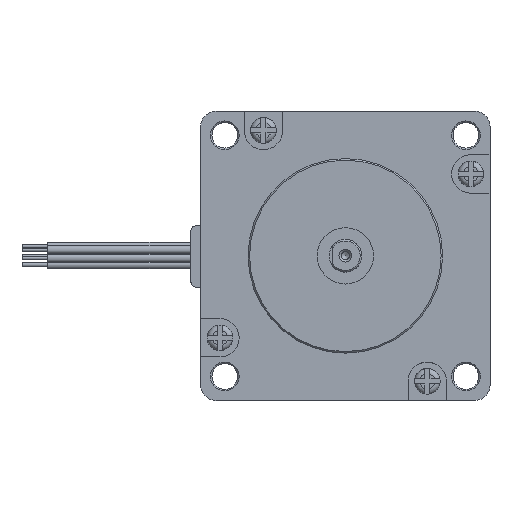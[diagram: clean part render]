
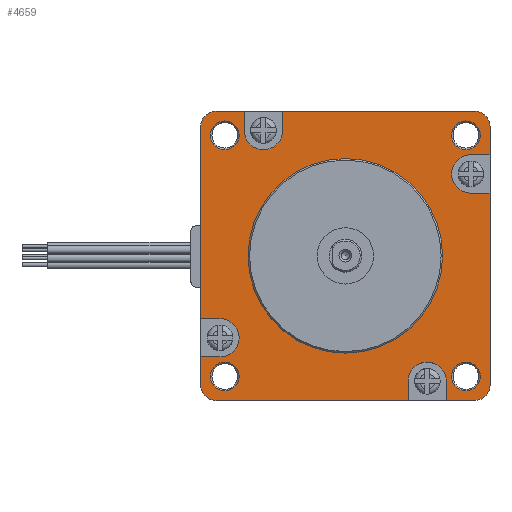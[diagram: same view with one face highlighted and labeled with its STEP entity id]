
A CAD part, top view. The second image highlights one B-rep face of the part: STEP entity #4659.
In plain terms, the highlighted planar face has unit normal (0, 0, 1).
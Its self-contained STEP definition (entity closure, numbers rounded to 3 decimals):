
#260=LINE('',#7596,#660);
#264=LINE('',#7603,#664);
#266=LINE('',#7608,#666);
#272=LINE('',#7617,#672);
#276=LINE('',#7633,#676);
#280=LINE('',#7640,#680);
#282=LINE('',#7645,#682);
#288=LINE('',#7654,#688);
#291=LINE('',#7662,#691);
#295=LINE('',#7674,#695);
#298=LINE('',#7681,#698);
#299=LINE('',#7683,#699);
#300=LINE('',#7688,#700);
#301=LINE('',#7690,#701);
#302=LINE('',#7694,#702);
#303=LINE('',#7696,#703);
#660=VECTOR('',#5939,3.75);
#664=VECTOR('',#5945,3.75);
#666=VECTOR('',#5951,37.5);
#672=VECTOR('',#5957,5.5);
#676=VECTOR('',#5973,3.75);
#680=VECTOR('',#5979,3.75);
#682=VECTOR('',#5985,37.5);
#688=VECTOR('',#5991,5.5);
#691=VECTOR('',#5996,3.75);
#695=VECTOR('',#6008,3.75);
#698=VECTOR('',#6017,37.5);
#699=VECTOR('',#6018,5.5);
#700=VECTOR('',#6023,37.5);
#701=VECTOR('',#6024,3.75);
#702=VECTOR('',#6027,3.75);
#703=VECTOR('',#6028,5.5);
#991=PLANE('',#5063);
#1118=FACE_BOUND('',#1628,.T.);
#1119=FACE_BOUND('',#1629,.T.);
#1120=FACE_BOUND('',#1630,.T.);
#1121=FACE_BOUND('',#1631,.T.);
#1122=FACE_BOUND('',#1632,.T.);
#1295=FACE_OUTER_BOUND('',#1627,.T.);
#1627=EDGE_LOOP('',(#3679,#3680,#3681,#3682,#3683,#3684,#3685,#3686,#3687,
#3688,#3689,#3690,#3691,#3692,#3693,#3694,#3695,#3696,#3697,#3698,#3699,
#3700,#3701,#3702));
#1628=EDGE_LOOP('',(#3703));
#1629=EDGE_LOOP('',(#3704));
#1630=EDGE_LOOP('',(#3705));
#1631=EDGE_LOOP('',(#3706));
#1632=EDGE_LOOP('',(#3707));
#1903=CIRCLE('',#5043,3.75);
#1905=CIRCLE('',#5052,3.75);
#1907=CIRCLE('',#5060,3.75);
#1908=CIRCLE('',#5064,3.);
#1909=CIRCLE('',#5065,3.);
#1910=CIRCLE('',#5066,3.);
#1911=CIRCLE('',#5067,3.75);
#1912=CIRCLE('',#5068,3.);
#1913=CIRCLE('',#5069,2.8);
#1914=CIRCLE('',#5070,2.8);
#1915=CIRCLE('',#5071,19.);
#1916=CIRCLE('',#5072,2.8);
#1917=CIRCLE('',#5073,2.8);
#2204=VERTEX_POINT('',#7587);
#2205=VERTEX_POINT('',#7589);
#2207=VERTEX_POINT('',#7595);
#2209=VERTEX_POINT('',#7601);
#2210=VERTEX_POINT('',#7607);
#2213=VERTEX_POINT('',#7615);
#2216=VERTEX_POINT('',#7624);
#2217=VERTEX_POINT('',#7626);
#2219=VERTEX_POINT('',#7632);
#2221=VERTEX_POINT('',#7638);
#2222=VERTEX_POINT('',#7644);
#2225=VERTEX_POINT('',#7652);
#2228=VERTEX_POINT('',#7659);
#2229=VERTEX_POINT('',#7661);
#2231=VERTEX_POINT('',#7667);
#2233=VERTEX_POINT('',#7673);
#2234=VERTEX_POINT('',#7679);
#2235=VERTEX_POINT('',#7682);
#2236=VERTEX_POINT('',#7685);
#2237=VERTEX_POINT('',#7687);
#2238=VERTEX_POINT('',#7689);
#2239=VERTEX_POINT('',#7691);
#2240=VERTEX_POINT('',#7693);
#2241=VERTEX_POINT('',#7695);
#2242=VERTEX_POINT('',#7698);
#2243=VERTEX_POINT('',#7700);
#2244=VERTEX_POINT('',#7702);
#2245=VERTEX_POINT('',#7704);
#2246=VERTEX_POINT('',#7706);
#2715=EDGE_CURVE('',#2205,#2204,#1903,.T.);
#2718=EDGE_CURVE('',#2207,#2205,#260,.T.);
#2722=EDGE_CURVE('',#2204,#2209,#264,.T.);
#2724=EDGE_CURVE('',#2207,#2210,#266,.T.);
#2730=EDGE_CURVE('',#2213,#2209,#272,.T.);
#2733=EDGE_CURVE('',#2217,#2216,#1905,.T.);
#2736=EDGE_CURVE('',#2219,#2217,#276,.T.);
#2740=EDGE_CURVE('',#2216,#2221,#280,.T.);
#2742=EDGE_CURVE('',#2219,#2222,#282,.T.);
#2748=EDGE_CURVE('',#2225,#2221,#288,.T.);
#2751=EDGE_CURVE('',#2229,#2228,#291,.T.);
#2754=EDGE_CURVE('',#2231,#2229,#1907,.T.);
#2757=EDGE_CURVE('',#2233,#2231,#295,.T.);
#2760=EDGE_CURVE('',#2234,#2213,#1908,.T.);
#2761=EDGE_CURVE('',#2233,#2234,#298,.T.);
#2762=EDGE_CURVE('',#2235,#2228,#299,.T.);
#2763=EDGE_CURVE('',#2222,#2235,#1909,.T.);
#2764=EDGE_CURVE('',#2236,#2225,#1910,.T.);
#2765=EDGE_CURVE('',#2237,#2236,#300,.T.);
#2766=EDGE_CURVE('',#2237,#2238,#301,.T.);
#2767=EDGE_CURVE('',#2238,#2239,#1911,.T.);
#2768=EDGE_CURVE('',#2239,#2240,#302,.T.);
#2769=EDGE_CURVE('',#2241,#2240,#303,.T.);
#2770=EDGE_CURVE('',#2210,#2241,#1912,.T.);
#2771=EDGE_CURVE('',#2242,#2242,#1913,.T.);
#2772=EDGE_CURVE('',#2243,#2243,#1914,.T.);
#2773=EDGE_CURVE('',#2244,#2244,#1915,.T.);
#2774=EDGE_CURVE('',#2245,#2245,#1916,.T.);
#2775=EDGE_CURVE('',#2246,#2246,#1917,.T.);
#3679=ORIENTED_EDGE('',*,*,#2722,.T.);
#3680=ORIENTED_EDGE('',*,*,#2730,.F.);
#3681=ORIENTED_EDGE('',*,*,#2760,.F.);
#3682=ORIENTED_EDGE('',*,*,#2761,.F.);
#3683=ORIENTED_EDGE('',*,*,#2757,.T.);
#3684=ORIENTED_EDGE('',*,*,#2754,.T.);
#3685=ORIENTED_EDGE('',*,*,#2751,.T.);
#3686=ORIENTED_EDGE('',*,*,#2762,.F.);
#3687=ORIENTED_EDGE('',*,*,#2763,.F.);
#3688=ORIENTED_EDGE('',*,*,#2742,.F.);
#3689=ORIENTED_EDGE('',*,*,#2736,.T.);
#3690=ORIENTED_EDGE('',*,*,#2733,.T.);
#3691=ORIENTED_EDGE('',*,*,#2740,.T.);
#3692=ORIENTED_EDGE('',*,*,#2748,.F.);
#3693=ORIENTED_EDGE('',*,*,#2764,.F.);
#3694=ORIENTED_EDGE('',*,*,#2765,.F.);
#3695=ORIENTED_EDGE('',*,*,#2766,.T.);
#3696=ORIENTED_EDGE('',*,*,#2767,.T.);
#3697=ORIENTED_EDGE('',*,*,#2768,.T.);
#3698=ORIENTED_EDGE('',*,*,#2769,.F.);
#3699=ORIENTED_EDGE('',*,*,#2770,.F.);
#3700=ORIENTED_EDGE('',*,*,#2724,.F.);
#3701=ORIENTED_EDGE('',*,*,#2718,.T.);
#3702=ORIENTED_EDGE('',*,*,#2715,.T.);
#3703=ORIENTED_EDGE('',*,*,#2771,.F.);
#3704=ORIENTED_EDGE('',*,*,#2772,.F.);
#3705=ORIENTED_EDGE('',*,*,#2773,.T.);
#3706=ORIENTED_EDGE('',*,*,#2774,.F.);
#3707=ORIENTED_EDGE('',*,*,#2775,.F.);
#4659=ADVANCED_FACE('',(#1295,#1118,#1119,#1120,#1121,#1122),#991,.T.);
#5043=AXIS2_PLACEMENT_3D('',#7590,#5933,#5934);
#5052=AXIS2_PLACEMENT_3D('',#7627,#5967,#5968);
#5060=AXIS2_PLACEMENT_3D('',#7668,#6002,#6003);
#5063=AXIS2_PLACEMENT_3D('',#7678,#6013,#6014);
#5064=AXIS2_PLACEMENT_3D('',#7680,#6015,#6016);
#5065=AXIS2_PLACEMENT_3D('',#7684,#6019,#6020);
#5066=AXIS2_PLACEMENT_3D('',#7686,#6021,#6022);
#5067=AXIS2_PLACEMENT_3D('',#7692,#6025,#6026);
#5068=AXIS2_PLACEMENT_3D('',#7697,#6029,#6030);
#5069=AXIS2_PLACEMENT_3D('',#7699,#6031,#6032);
#5070=AXIS2_PLACEMENT_3D('',#7701,#6033,#6034);
#5071=AXIS2_PLACEMENT_3D('',#7703,#6035,#6036);
#5072=AXIS2_PLACEMENT_3D('',#7705,#6037,#6038);
#5073=AXIS2_PLACEMENT_3D('',#7707,#6039,#6040);
#5933=DIRECTION('center_axis',(0.,0.,-1.));
#5934=DIRECTION('ref_axis',(-1.,0.,0.));
#5939=DIRECTION('',(0.,-1.,0.));
#5945=DIRECTION('',(0.,1.,0.));
#5951=DIRECTION('',(1.,0.,0.));
#5957=DIRECTION('',(1.,0.,0.));
#5967=DIRECTION('center_axis',(0.,0.,-1.));
#5968=DIRECTION('ref_axis',(1.,0.,0.));
#5973=DIRECTION('',(0.,1.,0.));
#5979=DIRECTION('',(0.,-1.,0.));
#5985=DIRECTION('',(-1.,0.,0.));
#5991=DIRECTION('',(-1.,0.,0.));
#5996=DIRECTION('',(-1.,0.,0.));
#6002=DIRECTION('center_axis',(0.,0.,-1.));
#6003=DIRECTION('ref_axis',(0.,-1.,0.));
#6008=DIRECTION('',(1.,0.,0.));
#6013=DIRECTION('center_axis',(0.,0.,1.));
#6014=DIRECTION('ref_axis',(1.,0.,0.));
#6015=DIRECTION('center_axis',(0.,0.,-1.));
#6016=DIRECTION('ref_axis',(-0.707,0.707,0.));
#6017=DIRECTION('',(0.,1.,0.));
#6018=DIRECTION('',(0.,1.,0.));
#6019=DIRECTION('center_axis',(0.,0.,-1.));
#6020=DIRECTION('ref_axis',(-0.707,-0.707,0.));
#6021=DIRECTION('center_axis',(0.,0.,-1.));
#6022=DIRECTION('ref_axis',(0.707,-0.707,0.));
#6023=DIRECTION('',(0.,-1.,0.));
#6024=DIRECTION('',(-1.,0.,0.));
#6025=DIRECTION('center_axis',(0.,0.,-1.));
#6026=DIRECTION('ref_axis',(0.,1.,0.));
#6027=DIRECTION('',(1.,0.,0.));
#6028=DIRECTION('',(0.,-1.,0.));
#6029=DIRECTION('center_axis',(0.,0.,-1.));
#6030=DIRECTION('ref_axis',(0.707,0.707,0.));
#6031=DIRECTION('center_axis',(0.,0.,1.));
#6032=DIRECTION('ref_axis',(-1.,0.,0.));
#6033=DIRECTION('center_axis',(0.,0.,1.));
#6034=DIRECTION('ref_axis',(-1.,0.,0.));
#6035=DIRECTION('center_axis',(0.,0.,-1.));
#6036=DIRECTION('ref_axis',(-1.,0.,0.));
#6037=DIRECTION('center_axis',(0.,0.,1.));
#6038=DIRECTION('ref_axis',(-1.,0.,0.));
#6039=DIRECTION('center_axis',(0.,0.,1.));
#6040=DIRECTION('ref_axis',(-1.,0.,0.));
#7587=CARTESIAN_POINT('',(8.5,52.75,9.));
#7589=CARTESIAN_POINT('',(16.,52.75,9.));
#7590=CARTESIAN_POINT('Origin',(12.25,52.75,9.));
#7595=CARTESIAN_POINT('',(16.,56.5,9.));
#7596=CARTESIAN_POINT('',(16.,40.5,9.));
#7601=CARTESIAN_POINT('',(8.5,56.5,9.));
#7603=CARTESIAN_POINT('',(8.5,42.375,9.));
#7607=CARTESIAN_POINT('',(53.5,56.5,9.));
#7608=CARTESIAN_POINT('',(56.5,56.5,9.));
#7615=CARTESIAN_POINT('',(3.,56.5,9.));
#7617=CARTESIAN_POINT('',(56.5,56.5,9.));
#7624=CARTESIAN_POINT('',(48.,3.75,9.));
#7626=CARTESIAN_POINT('',(40.5,3.75,9.));
#7627=CARTESIAN_POINT('Origin',(44.25,3.75,9.));
#7632=CARTESIAN_POINT('',(40.5,0.,9.));
#7633=CARTESIAN_POINT('',(40.5,16.,9.));
#7638=CARTESIAN_POINT('',(48.,0.,9.));
#7640=CARTESIAN_POINT('',(48.,14.125,9.));
#7644=CARTESIAN_POINT('',(3.,0.,9.));
#7645=CARTESIAN_POINT('',(0.,0.,9.));
#7652=CARTESIAN_POINT('',(53.5,0.,9.));
#7654=CARTESIAN_POINT('',(0.,0.,9.));
#7659=CARTESIAN_POINT('',(0.,8.5,9.));
#7661=CARTESIAN_POINT('',(3.75,8.5,9.));
#7662=CARTESIAN_POINT('',(14.125,8.5,9.));
#7667=CARTESIAN_POINT('',(3.75,16.,9.));
#7668=CARTESIAN_POINT('Origin',(3.75,12.25,9.));
#7673=CARTESIAN_POINT('',(0.,16.,9.));
#7674=CARTESIAN_POINT('',(16.,16.,9.));
#7678=CARTESIAN_POINT('Origin',(28.25,28.25,9.));
#7679=CARTESIAN_POINT('',(0.,53.5,9.));
#7680=CARTESIAN_POINT('Origin',(3.,53.5,9.));
#7681=CARTESIAN_POINT('',(0.,56.5,9.));
#7682=CARTESIAN_POINT('',(0.,3.,9.));
#7683=CARTESIAN_POINT('',(0.,56.5,9.));
#7684=CARTESIAN_POINT('Origin',(3.,3.,9.));
#7685=CARTESIAN_POINT('',(56.5,3.,9.));
#7686=CARTESIAN_POINT('Origin',(53.5,3.,9.));
#7687=CARTESIAN_POINT('',(56.5,40.5,9.));
#7688=CARTESIAN_POINT('',(56.5,0.,9.));
#7689=CARTESIAN_POINT('',(52.75,40.5,9.));
#7690=CARTESIAN_POINT('',(40.5,40.5,9.));
#7691=CARTESIAN_POINT('',(52.75,48.,9.));
#7692=CARTESIAN_POINT('Origin',(52.75,44.25,9.));
#7693=CARTESIAN_POINT('',(56.5,48.,9.));
#7694=CARTESIAN_POINT('',(42.375,48.,9.));
#7695=CARTESIAN_POINT('',(56.5,53.5,9.));
#7696=CARTESIAN_POINT('',(56.5,0.,9.));
#7697=CARTESIAN_POINT('Origin',(53.5,53.5,9.));
#7698=CARTESIAN_POINT('',(54.6,51.8,9.));
#7699=CARTESIAN_POINT('Origin',(51.8,51.8,9.));
#7700=CARTESIAN_POINT('',(7.5,4.7,9.));
#7701=CARTESIAN_POINT('Origin',(4.7,4.7,9.));
#7702=CARTESIAN_POINT('',(47.25,28.25,9.));
#7703=CARTESIAN_POINT('Origin',(28.25,28.25,9.));
#7704=CARTESIAN_POINT('',(7.5,51.8,9.));
#7705=CARTESIAN_POINT('Origin',(4.7,51.8,9.));
#7706=CARTESIAN_POINT('',(54.6,4.7,9.));
#7707=CARTESIAN_POINT('Origin',(51.8,4.7,9.));
